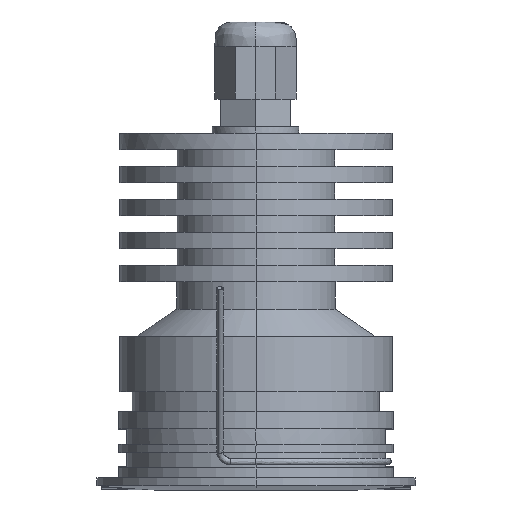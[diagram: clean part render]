
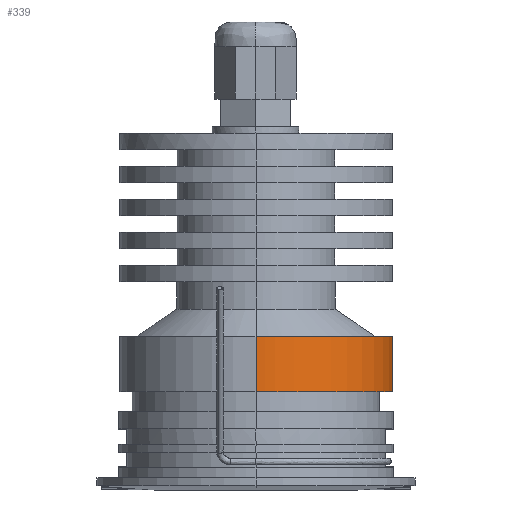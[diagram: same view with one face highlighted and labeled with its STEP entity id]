
A CAD part, left-side view. The second image highlights one B-rep face of the part: STEP entity #339.
In plain terms, the highlighted free-form (B-spline) face has degree [2, 1] with [5, 2] control points.
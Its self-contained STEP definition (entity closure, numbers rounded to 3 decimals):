
#339=ADVANCED_FACE('',(#1203),#27424,.T.);
#1203=FACE_OUTER_BOUND('',#2102,.T.);
#2102=EDGE_LOOP('',(#3702,#3703,#3704,#3705));
#3702=ORIENTED_EDGE('',*,*,#22937,.F.);
#3703=ORIENTED_EDGE('',*,*,#22639,.F.);
#3704=ORIENTED_EDGE('',*,*,#22938,.T.);
#3705=ORIENTED_EDGE('',*,*,#22637,.F.);
#7440=PCURVE('',#27391,#11604);
#7442=PCURVE('',#27391,#11606);
#7864=PCURVE('',#27423,#12028);
#7866=PCURVE('',#27424,#12030);
#7867=PCURVE('',#27424,#12031);
#7868=PCURVE('',#27424,#12032);
#7869=PCURVE('',#27424,#12033);
#7870=PCURVE('',#27425,#12034);
#11604=DEFINITIONAL_REPRESENTATION('',(#15849),#69733);
#11606=DEFINITIONAL_REPRESENTATION('',(#15852),#69733);
#12028=DEFINITIONAL_REPRESENTATION('',(#16328),#69733);
#12030=DEFINITIONAL_REPRESENTATION('',(#16330),#69733);
#12031=DEFINITIONAL_REPRESENTATION('',(#16331),#69733);
#12032=DEFINITIONAL_REPRESENTATION('',(#16332),#69733);
#12033=DEFINITIONAL_REPRESENTATION('',(#16333),#69733);
#12034=DEFINITIONAL_REPRESENTATION('',(#16334),#69733);
#15848=B_SPLINE_CURVE_WITH_KNOTS('',1,(#33166,#33167),.UNSPECIFIED.,.F.,
 .F.,(2,2),(48.762,58.762),.UNSPECIFIED.);
#15849=B_SPLINE_CURVE_WITH_KNOTS('',1,(#33168,#33169),.UNSPECIFIED.,.F.,
 .F.,(2,2),(48.762,58.762),.UNSPECIFIED.);
#15851=B_SPLINE_CURVE_WITH_KNOTS('',1,(#33177,#33178),.UNSPECIFIED.,.F.,
 .F.,(2,2),(-58.762,-48.762),.UNSPECIFIED.);
#15852=B_SPLINE_CURVE_WITH_KNOTS('',1,(#33179,#33180),.UNSPECIFIED.,.F.,
 .F.,(2,2),(-58.762,-48.762),.UNSPECIFIED.);
#16328=B_SPLINE_CURVE_WITH_KNOTS('',1,(#36079,#36080),.UNSPECIFIED.,.F.,
 .F.,(2,2),(-227.452,-113.726),.UNSPECIFIED.);
#16330=B_SPLINE_CURVE_WITH_KNOTS('',1,(#36083,#36084),.UNSPECIFIED.,.F.,
 .F.,(2,2),(-227.452,-113.726),.UNSPECIFIED.);
#16331=B_SPLINE_CURVE_WITH_KNOTS('',1,(#36085,#36086),.UNSPECIFIED.,.F.,
 .F.,(2,2),(-58.762,-48.762),.UNSPECIFIED.);
#16332=B_SPLINE_CURVE_WITH_KNOTS('',1,(#36092,#36093),.UNSPECIFIED.,.F.,
 .F.,(2,2),(-227.452,-113.726),.UNSPECIFIED.);
#16333=B_SPLINE_CURVE_WITH_KNOTS('',1,(#36094,#36095),.UNSPECIFIED.,.F.,
 .F.,(2,2),(48.762,58.762),.UNSPECIFIED.);
#16334=B_SPLINE_CURVE_WITH_KNOTS('',1,(#36096,#36097),.UNSPECIFIED.,.F.,
 .F.,(2,2),(-227.452,-113.726),.UNSPECIFIED.);
#20555=SURFACE_CURVE('',#15848,(#7440,#7869),.PCURVE_S1.);
#20557=SURFACE_CURVE('',#15851,(#7442,#7867),.PCURVE_S1.);
#20855=SURFACE_CURVE('',#24883,(#7864,#7866),.PCURVE_S1.);
#20856=SURFACE_CURVE('',#24884,(#7868,#7870),.PCURVE_S1.);
#22637=EDGE_CURVE('',#26026,#26027,#20555,.T.);
#22639=EDGE_CURVE('',#25899,#25900,#20557,.T.);
#22937=EDGE_CURVE('',#25900,#26026,#20855,.T.);
#22938=EDGE_CURVE('',#25899,#26027,#20856,.T.);
#24883=(
BOUNDED_CURVE()
B_SPLINE_CURVE(2,(#36074,#36075,#36076,#36077,#36078),.UNSPECIFIED.,.F.,
 .F.)
B_SPLINE_CURVE_WITH_KNOTS((3,2,3),(-227.452,-170.589,
-113.726),.UNSPECIFIED.)
CURVE()
GEOMETRIC_REPRESENTATION_ITEM()
RATIONAL_B_SPLINE_CURVE((1.,0.707,1.,0.707,1.))
REPRESENTATION_ITEM('')
);
#24884=(
BOUNDED_CURVE()
B_SPLINE_CURVE(2,(#36087,#36088,#36089,#36090,#36091),.UNSPECIFIED.,.F.,
 .F.)
B_SPLINE_CURVE_WITH_KNOTS((3,2,3),(-227.452,-170.589,
-113.726),.UNSPECIFIED.)
CURVE()
GEOMETRIC_REPRESENTATION_ITEM()
RATIONAL_B_SPLINE_CURVE((1.,0.707,1.,0.707,1.))
REPRESENTATION_ITEM('')
);
#25899=VERTEX_POINT('',#32443);
#25900=VERTEX_POINT('',#32444);
#26026=VERTEX_POINT('',#32570);
#26027=VERTEX_POINT('',#32571);
#27391=(
BOUNDED_SURFACE()
B_SPLINE_SURFACE(2,1,((#31825,#31826),(#31827,#31828),(#31829,#31830),(#31831,
#31832),(#31833,#31834)),.UNSPECIFIED.,.F.,.F.,.F.)
B_SPLINE_SURFACE_WITH_KNOTS((3,2,3),(2,2),(0.,56.863,113.726),
(48.762,58.762),.UNSPECIFIED.)
GEOMETRIC_REPRESENTATION_ITEM()
RATIONAL_B_SPLINE_SURFACE(((1.,1.),(0.707,0.707),
(1.,1.),(0.707,0.707),(1.,1.)))
REPRESENTATION_ITEM('')
SURFACE()
);
#27423=(
BOUNDED_SURFACE()
B_SPLINE_SURFACE(2,1,((#32172,#32173),(#32174,#32175),(#32176,#32177),(#32178,
#32179),(#32180,#32181)),.UNSPECIFIED.,.F.,.F.,.F.)
B_SPLINE_SURFACE_WITH_KNOTS((3,2,3),(2,2),(113.726,170.589,
227.452),(46.512,48.762),.UNSPECIFIED.)
GEOMETRIC_REPRESENTATION_ITEM()
RATIONAL_B_SPLINE_SURFACE(((1.,1.),(0.707,0.707),
(1.,1.),(0.707,0.707),(1.,1.)))
REPRESENTATION_ITEM('')
SURFACE()
);
#27424=(
BOUNDED_SURFACE()
B_SPLINE_SURFACE(2,1,((#32182,#32183),(#32184,#32185),(#32186,#32187),(#32188,
#32189),(#32190,#32191)),.UNSPECIFIED.,.F.,.F.,.F.)
B_SPLINE_SURFACE_WITH_KNOTS((3,2,3),(2,2),(113.726,170.589,
227.452),(48.762,58.762),.UNSPECIFIED.)
GEOMETRIC_REPRESENTATION_ITEM()
RATIONAL_B_SPLINE_SURFACE(((1.,1.),(0.707,0.707),
(1.,1.),(0.707,0.707),(1.,1.)))
REPRESENTATION_ITEM('')
SURFACE()
);
#27425=(
BOUNDED_SURFACE()
B_SPLINE_SURFACE(2,1,((#32192,#32193),(#32194,#32195),(#32196,#32197),(#32198,
#32199),(#32200,#32201)),.UNSPECIFIED.,.F.,.F.,.F.)
B_SPLINE_SURFACE_WITH_KNOTS((3,2,3),(2,2),(113.726,170.589,
227.452),(58.762,61.762),.UNSPECIFIED.)
GEOMETRIC_REPRESENTATION_ITEM()
RATIONAL_B_SPLINE_SURFACE(((1.,1.),(0.707,0.707),
(1.,1.),(0.707,0.707),(1.,1.)))
REPRESENTATION_ITEM('')
SURFACE()
);
#31825=CARTESIAN_POINT('',(24.75,0.,17.053));
#31826=CARTESIAN_POINT('',(24.75,0.,27.053));
#31827=CARTESIAN_POINT('',(24.75,24.75,17.053));
#31828=CARTESIAN_POINT('',(24.75,24.75,27.053));
#31829=CARTESIAN_POINT('',(0.,24.75,17.053));
#31830=CARTESIAN_POINT('',(0.,24.75,27.053));
#31831=CARTESIAN_POINT('',(-24.75,24.75,17.053));
#31832=CARTESIAN_POINT('',(-24.75,24.75,27.053));
#31833=CARTESIAN_POINT('',(-24.75,0.,17.053));
#31834=CARTESIAN_POINT('',(-24.75,0.,27.053));
#32172=CARTESIAN_POINT('',(-22.5,0.,17.053));
#32173=CARTESIAN_POINT('',(-24.75,0.,17.053));
#32174=CARTESIAN_POINT('',(-22.5,-22.5,17.053));
#32175=CARTESIAN_POINT('',(-24.75,-24.75,17.053));
#32176=CARTESIAN_POINT('',(0.,-22.5,17.053));
#32177=CARTESIAN_POINT('',(0.,-24.75,17.053));
#32178=CARTESIAN_POINT('',(22.5,-22.5,17.053));
#32179=CARTESIAN_POINT('',(24.75,-24.75,17.053));
#32180=CARTESIAN_POINT('',(22.5,0.,17.053));
#32181=CARTESIAN_POINT('',(24.75,0.,17.053));
#32182=CARTESIAN_POINT('',(-24.75,0.,17.053));
#32183=CARTESIAN_POINT('',(-24.75,0.,27.053));
#32184=CARTESIAN_POINT('',(-24.75,-24.75,17.053));
#32185=CARTESIAN_POINT('',(-24.75,-24.75,27.053));
#32186=CARTESIAN_POINT('',(0.,-24.75,17.053));
#32187=CARTESIAN_POINT('',(0.,-24.75,27.053));
#32188=CARTESIAN_POINT('',(24.75,-24.75,17.053));
#32189=CARTESIAN_POINT('',(24.75,-24.75,27.053));
#32190=CARTESIAN_POINT('',(24.75,0.,17.053));
#32191=CARTESIAN_POINT('',(24.75,0.,27.053));
#32192=CARTESIAN_POINT('',(-24.75,0.,27.053));
#32193=CARTESIAN_POINT('',(-21.75,0.,27.053));
#32194=CARTESIAN_POINT('',(-24.75,-24.75,27.053));
#32195=CARTESIAN_POINT('',(-21.75,-21.75,27.053));
#32196=CARTESIAN_POINT('',(0.,-24.75,27.053));
#32197=CARTESIAN_POINT('',(0.,-21.75,27.053));
#32198=CARTESIAN_POINT('',(24.75,-24.75,27.053));
#32199=CARTESIAN_POINT('',(21.75,-21.75,27.053));
#32200=CARTESIAN_POINT('',(24.75,0.,27.053));
#32201=CARTESIAN_POINT('',(21.75,0.,27.053));
#32443=CARTESIAN_POINT('',(24.75,0.,27.053));
#32444=CARTESIAN_POINT('',(24.75,0.,17.053));
#32570=CARTESIAN_POINT('',(-24.75,0.,17.053));
#32571=CARTESIAN_POINT('',(-24.75,0.,27.053));
#33166=CARTESIAN_POINT('',(-24.75,0.,17.053));
#33167=CARTESIAN_POINT('',(-24.75,0.,27.053));
#33168=CARTESIAN_POINT('',(113.726,48.762));
#33169=CARTESIAN_POINT('',(113.726,58.762));
#33177=CARTESIAN_POINT('',(24.75,0.,27.053));
#33178=CARTESIAN_POINT('',(24.75,0.,17.053));
#33179=CARTESIAN_POINT('',(0.,58.762));
#33180=CARTESIAN_POINT('',(0.,48.762));
#36074=CARTESIAN_POINT('',(24.75,0.,17.053));
#36075=CARTESIAN_POINT('',(24.75,-24.75,17.053));
#36076=CARTESIAN_POINT('',(0.,-24.75,17.053));
#36077=CARTESIAN_POINT('',(-24.75,-24.75,17.053));
#36078=CARTESIAN_POINT('',(-24.75,0.,17.053));
#36079=CARTESIAN_POINT('',(227.452,48.762));
#36080=CARTESIAN_POINT('',(113.726,48.762));
#36083=CARTESIAN_POINT('',(227.452,48.762));
#36084=CARTESIAN_POINT('',(113.726,48.762));
#36085=CARTESIAN_POINT('',(227.452,58.762));
#36086=CARTESIAN_POINT('',(227.452,48.762));
#36087=CARTESIAN_POINT('',(24.75,0.,27.053));
#36088=CARTESIAN_POINT('',(24.75,-24.75,27.053));
#36089=CARTESIAN_POINT('',(0.,-24.75,27.053));
#36090=CARTESIAN_POINT('',(-24.75,-24.75,27.053));
#36091=CARTESIAN_POINT('',(-24.75,0.,27.053));
#36092=CARTESIAN_POINT('',(227.452,58.762));
#36093=CARTESIAN_POINT('',(113.726,58.762));
#36094=CARTESIAN_POINT('',(113.726,48.762));
#36095=CARTESIAN_POINT('',(113.726,58.762));
#36096=CARTESIAN_POINT('',(227.452,58.762));
#36097=CARTESIAN_POINT('',(113.726,58.762));
#69733=(
GEOMETRIC_REPRESENTATION_CONTEXT(2)
PARAMETRIC_REPRESENTATION_CONTEXT()
REPRESENTATION_CONTEXT('pspace','')
);
